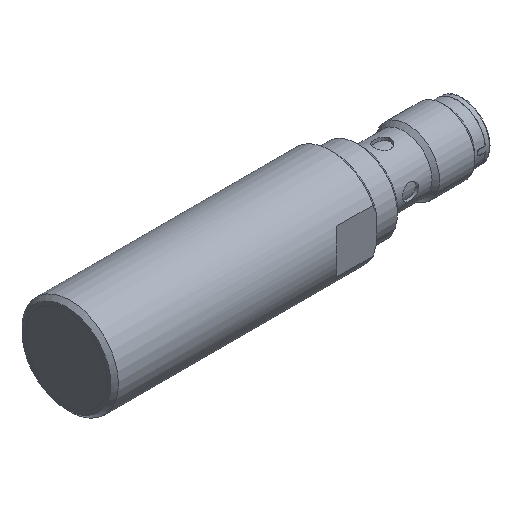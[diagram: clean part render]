
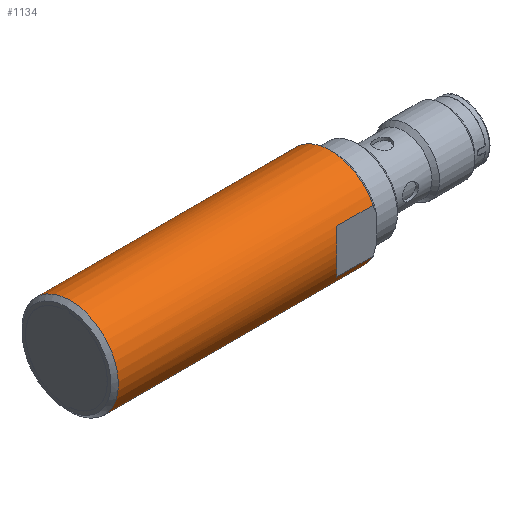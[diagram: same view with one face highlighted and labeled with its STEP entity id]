
A CAD part, isometric view. The second image highlights one B-rep face of the part: STEP entity #1134.
In plain terms, the highlighted cylindrical face has radius 9 mm (diameter 18 mm), a full revolution.
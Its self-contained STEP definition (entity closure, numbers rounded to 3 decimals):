
#68=ELLIPSE('',#1210,12.728,9.);
#69=ELLIPSE('',#1212,12.728,9.);
#78=LINE('',#1672,#132);
#79=LINE('',#1676,#133);
#80=LINE('',#1680,#134);
#81=LINE('',#1683,#135);
#132=VECTOR('',#1354,6.801);
#133=VECTOR('',#1357,6.801);
#134=VECTOR('',#1360,6.801);
#135=VECTOR('',#1363,6.801);
#186=CYLINDRICAL_SURFACE('',#1208,9.);
#214=FACE_BOUND('',#306,.T.);
#252=FACE_OUTER_BOUND('',#305,.T.);
#305=EDGE_LOOP('',(#817,#818,#819,#820,#821,#822,#823,#824));
#306=EDGE_LOOP('',(#825));
#395=CIRCLE('',#1207,9.);
#396=CIRCLE('',#1209,9.);
#397=CIRCLE('',#1211,9.);
#467=VERTEX_POINT('',#1665);
#468=VERTEX_POINT('',#1668);
#469=VERTEX_POINT('',#1669);
#470=VERTEX_POINT('',#1671);
#471=VERTEX_POINT('',#1673);
#472=VERTEX_POINT('',#1675);
#473=VERTEX_POINT('',#1677);
#474=VERTEX_POINT('',#1679);
#475=VERTEX_POINT('',#1681);
#631=EDGE_CURVE('',#467,#467,#395,.T.);
#632=EDGE_CURVE('',#468,#469,#396,.T.);
#633=EDGE_CURVE('',#468,#470,#78,.T.);
#634=EDGE_CURVE('',#470,#471,#68,.T.);
#635=EDGE_CURVE('',#471,#472,#79,.T.);
#636=EDGE_CURVE('',#473,#472,#397,.T.);
#637=EDGE_CURVE('',#473,#474,#80,.T.);
#638=EDGE_CURVE('',#474,#475,#69,.T.);
#639=EDGE_CURVE('',#475,#469,#81,.T.);
#817=ORIENTED_EDGE('',*,*,#632,.F.);
#818=ORIENTED_EDGE('',*,*,#633,.T.);
#819=ORIENTED_EDGE('',*,*,#634,.T.);
#820=ORIENTED_EDGE('',*,*,#635,.T.);
#821=ORIENTED_EDGE('',*,*,#636,.F.);
#822=ORIENTED_EDGE('',*,*,#637,.T.);
#823=ORIENTED_EDGE('',*,*,#638,.T.);
#824=ORIENTED_EDGE('',*,*,#639,.T.);
#825=ORIENTED_EDGE('',*,*,#631,.F.);
#1134=ADVANCED_FACE('',(#252,#214),#186,.T.);
#1207=AXIS2_PLACEMENT_3D('',#1666,#1348,#1349);
#1208=AXIS2_PLACEMENT_3D('',#1667,#1350,#1351);
#1209=AXIS2_PLACEMENT_3D('',#1670,#1352,#1353);
#1210=AXIS2_PLACEMENT_3D('',#1674,#1355,#1356);
#1211=AXIS2_PLACEMENT_3D('',#1678,#1358,#1359);
#1212=AXIS2_PLACEMENT_3D('',#1682,#1361,#1362);
#1348=DIRECTION('center_axis',(-1.,0.,0.));
#1349=DIRECTION('ref_axis',(0.,0.,-1.));
#1350=DIRECTION('center_axis',(1.,0.,0.));
#1351=DIRECTION('ref_axis',(0.,0.,-1.));
#1352=DIRECTION('center_axis',(1.,0.,0.));
#1353=DIRECTION('ref_axis',(0.,0.889,0.458));
#1354=DIRECTION('',(-1.,0.,0.));
#1355=DIRECTION('center_axis',(-0.707,-0.707,0.));
#1356=DIRECTION('ref_axis',(-0.707,0.707,0.));
#1357=DIRECTION('',(1.,0.,0.));
#1358=DIRECTION('center_axis',(1.,0.,0.));
#1359=DIRECTION('ref_axis',(0.,-0.889,-0.458));
#1360=DIRECTION('',(-1.,0.,0.));
#1361=DIRECTION('center_axis',(-0.707,0.707,0.));
#1362=DIRECTION('ref_axis',(0.707,0.707,0.));
#1363=DIRECTION('',(1.,0.,0.));
#1665=CARTESIAN_POINT('',(-49.3,0.,9.));
#1666=CARTESIAN_POINT('Origin',(-49.3,0.,0.));
#1667=CARTESIAN_POINT('Origin',(-25.,0.,0.));
#1668=CARTESIAN_POINT('',(-0.7,8.,4.123));
#1669=CARTESIAN_POINT('',(-0.7,-8.,4.123));
#1670=CARTESIAN_POINT('Origin',(-0.7,0.,0.));
#1671=CARTESIAN_POINT('',(-7.501,8.,4.123));
#1672=CARTESIAN_POINT('',(-0.7,8.,4.123));
#1673=CARTESIAN_POINT('',(-7.501,8.,-4.123));
#1674=CARTESIAN_POINT('Origin',(0.499,0.,0.));
#1675=CARTESIAN_POINT('',(-0.7,8.,-4.123));
#1676=CARTESIAN_POINT('',(-7.501,8.,-4.123));
#1677=CARTESIAN_POINT('',(-0.7,-8.,-4.123));
#1678=CARTESIAN_POINT('Origin',(-0.7,0.,0.));
#1679=CARTESIAN_POINT('',(-7.501,-8.,-4.123));
#1680=CARTESIAN_POINT('',(-0.7,-8.,-4.123));
#1681=CARTESIAN_POINT('',(-7.501,-8.,4.123));
#1682=CARTESIAN_POINT('Origin',(0.499,0.,0.));
#1683=CARTESIAN_POINT('',(-7.501,-8.,4.123));
